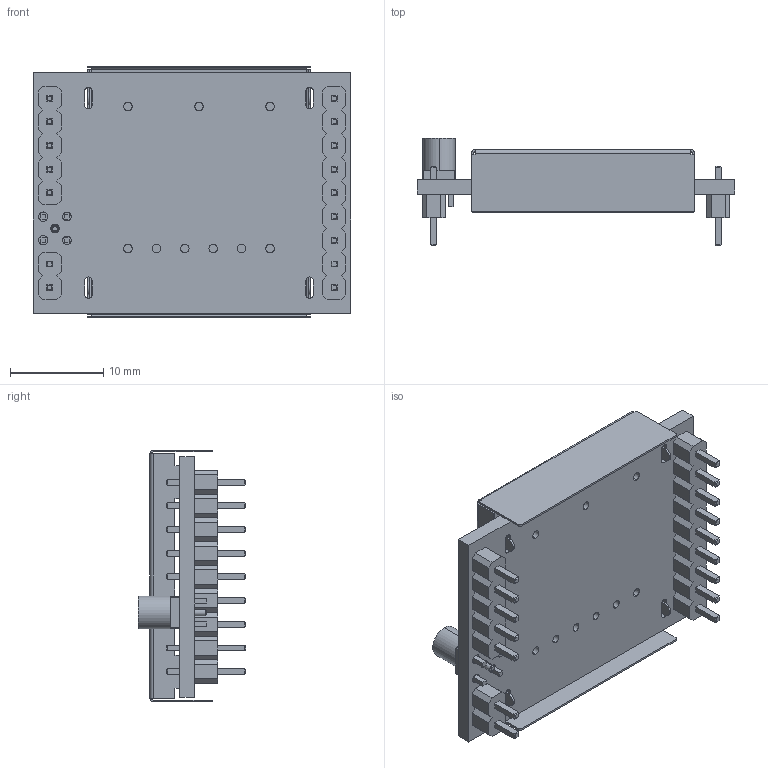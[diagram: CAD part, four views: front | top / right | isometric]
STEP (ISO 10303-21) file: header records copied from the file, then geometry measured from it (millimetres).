
FILE_DESCRIPTION( (''), '2;1');
FILE_NAME ('GF-8801_3D_DATA.stp','2019-09-19T13:06:13',(''),(''),'spGate 15.6.6','','');
FILE_SCHEMA (('AUTOMOTIVE_DESIGN'));
Length unit declared in the file: millimetre
Products named in the file (7): Assembly; GF-8801_3D_DATA-prt0; GF-8801_3D_DATA-prt1; GF-8801_3D_DATA-prt2; GF-8801_3D_DATA-prt3; GF-8801_3D_DATA-prt4; GF-8801_3D_DATA-prt5
Assembly tree (6 placements, depth 2):
  Assembly
    GF-8801_3D_DATA-prt0
    GF-8801_3D_DATA-prt1
    GF-8801_3D_DATA-prt2
    GF-8801_3D_DATA-prt3
    GF-8801_3D_DATA-prt4
    GF-8801_3D_DATA-prt5
Bounding box: 34 x 11.55 x 27 mm (x, y, z)
Volume: 1885 mm3; surface area: 5105.7 mm2
Topology: 6 solids, 6 shells, 606 faces, 1518 edges, 964 vertices
Faces by surface type: plane 506, cylinder 98, bspline 2
Entity records: 30348 total; most frequent: CARTESIAN_POINT 3192, ORIENTED_EDGE 3036, DIRECTION 2882, COLOUR_RGB 2130, PRESENTATION_STYLE_ASSIGNMENT 2130, STYLED_ITEM 2130, EDGE_CURVE 1518, DRAUGHTING_PRE_DEFINED_CURVE_FONT 1518
